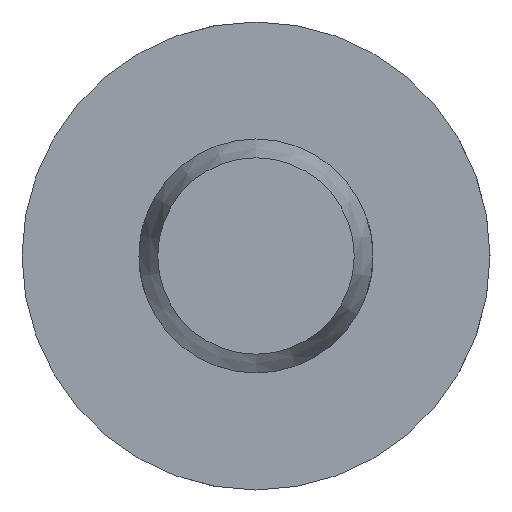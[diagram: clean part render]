
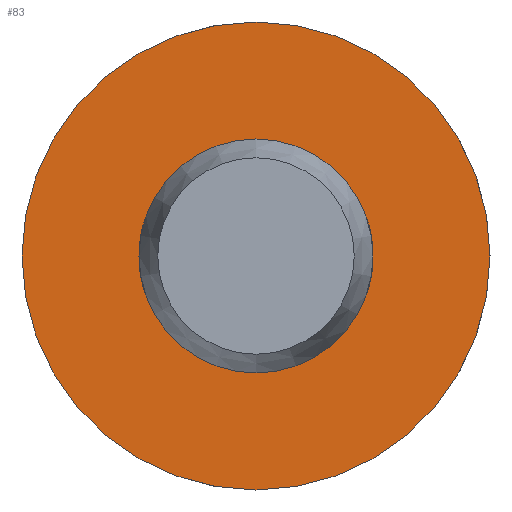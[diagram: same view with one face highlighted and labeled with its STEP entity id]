
A CAD part, left-side view. The second image highlights one B-rep face of the part: STEP entity #83.
In plain terms, the highlighted planar face has unit normal (-1, 0, 0).
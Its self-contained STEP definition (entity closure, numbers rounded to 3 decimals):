
#83 = ADVANCED_FACE( '', ( #129, #130 ), #131, .F. );
#129 = FACE_OUTER_BOUND( '', #208, .T. );
#130 = FACE_BOUND( '', #209, .T. );
#131 = PLANE( '', #210 );
#208 = EDGE_LOOP( '', ( #325 ) );
#209 = EDGE_LOOP( '', ( #326 ) );
#210 = AXIS2_PLACEMENT_3D( '', #327, #328, #329 );
#325 = ORIENTED_EDGE( '', *, *, #493, .F. );
#326 = ORIENTED_EDGE( '', *, *, #483, .T. );
#327 = CARTESIAN_POINT( '', ( 66., 2.5, 0. ) );
#328 = DIRECTION( '', ( 1., 0., 0. ) );
#329 = DIRECTION( '', ( 0., 0., -1. ) );
#483 = EDGE_CURVE( '', #554, #554, #555, .T. );
#493 = EDGE_CURVE( '', #572, #572, #573, .T. );
#554 = VERTEX_POINT( '', #741 );
#555 = CIRCLE( '', #742, 2.5 );
#572 = VERTEX_POINT( '', #842 );
#573 = CIRCLE( '', #843, 5. );
#741 = CARTESIAN_POINT( '', ( 66., 0., -2.5 ) );
#742 = AXIS2_PLACEMENT_3D( '', #906, #907, #908 );
#842 = CARTESIAN_POINT( '', ( 66., 0., -5. ) );
#843 = AXIS2_PLACEMENT_3D( '', #927, #928, #929 );
#906 = CARTESIAN_POINT( '', ( 66., 0., 0. ) );
#907 = DIRECTION( '', ( 1., 0., 0. ) );
#908 = DIRECTION( '', ( 0., 0., -1. ) );
#927 = CARTESIAN_POINT( '', ( 66., 0., 0. ) );
#928 = DIRECTION( '', ( 1., 0., 0. ) );
#929 = DIRECTION( '', ( 0., 0., -1. ) );
